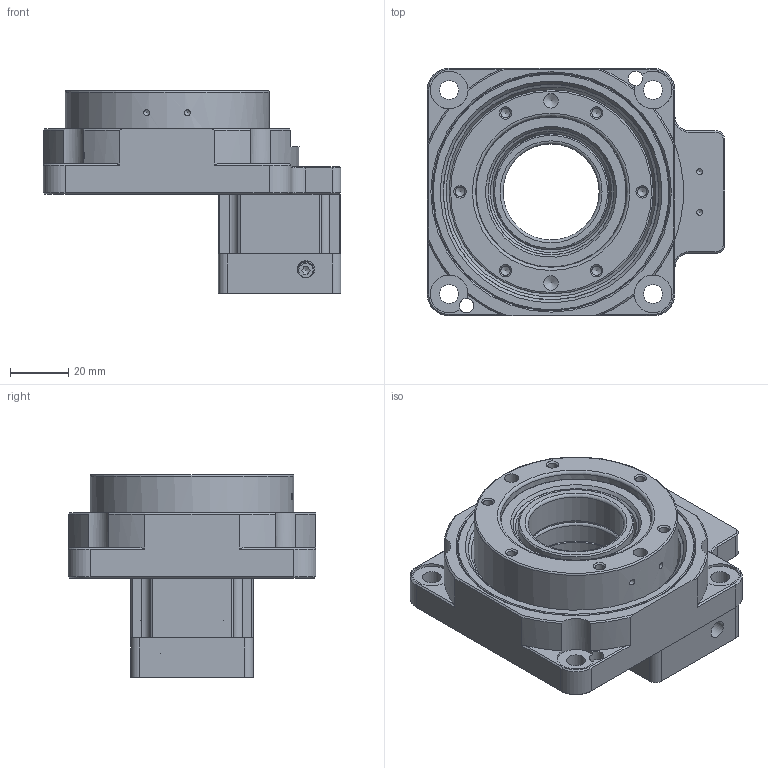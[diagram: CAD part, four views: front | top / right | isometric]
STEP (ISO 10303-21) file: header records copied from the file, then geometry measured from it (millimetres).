
FILE_DESCRIPTION((''),'2;1');
FILE_NAME('D:\유성\액추에이터\작성도면\액추에이터 3d\85\SHA085SV018 (1 STAGE-A TYPE).stp','2014-05-22T13:49:37',('nagyu'),(''),'Autodesk Inventor 2013','Autodesk Inventor 2013','');
FILE_SCHEMA(('AUTOMOTIVE_DESIGN { 1 0 10303 214 1 1 1 1 }'));
Length unit declared in the file: millimetre
Products named in the file (1): SHA085SV018 (1 STAGE-A TYPE)_Shrinkwrap_1
Bounding box: 102.1 x 85 x 69.5 mm (x, y, z)
Volume: 179843.3 mm3; surface area: 79805.2 mm2
Topology: 2 solids, 23 shells, 1658 faces, 4527 edges, 2956 vertices
Faces by surface type: bspline 967, plane 282, cylinder 210, cone 153, torus 46
Full cylindrical faces by diameter (mm): 1.5 x2, 2.013 x4, 2.459 x18, 3 x11, 3.242 x7, 3.4 x15, 3.5 x4, 4 x4, 4.9 x1, 5 x6, 5.022 x1, 5.5 x10, 6 x19, 6.5 x4, 7 x1, 8 x1, 8.2 x1, 13 x2, 13.4 x1, 14.5 x1, 14.9 x1, 15 x2, 17 x1, 18 x1, 21 x1, 23.6 x1, 25 x3, 28 x2, 29 x1, 29.5 x2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
Entity records: 67042 total; most frequent: CARTESIAN_POINT 30969, ORIENTED_EDGE 8248, DIRECTION 4980, EDGE_CURVE 4124, VERTEX_POINT 2856, AXIS2_PLACEMENT_3D 2293, EDGE_LOOP 2071, B_SPLINE_CURVE_WITH_KNOTS 2049
